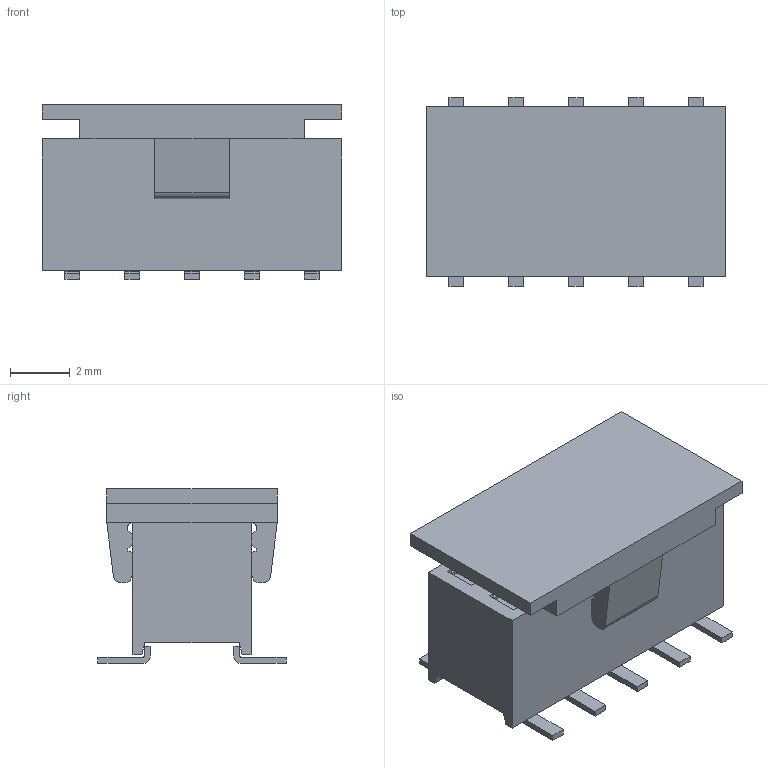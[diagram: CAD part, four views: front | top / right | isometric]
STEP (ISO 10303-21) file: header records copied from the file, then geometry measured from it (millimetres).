
FILE_DESCRIPTION (( 'STEP AP203' ), '1' );
FILE_NAME ('2143-2X05G00DNU-P.STEP', '2016-12-06T08:02:26', ( '' ), ( '' ), 'SwSTEP 2.0', 'SolidWorks 2011', '' );
FILE_SCHEMA (( 'CONFIG_CONTROL_DESIGN' ));
Length unit declared in the file: millimetre
Products named in the file (4): 2143-2X05G00DNU-P; 2143-PIN-D_0504; 2143-2X20B_0504; 2143-P1_0504_Default
Assembly tree (12 placements, depth 2):
  2143-2X05G00DNU-P
    2143-PIN-D_0504  x10
    2143-P1_0504_Default
    2143-2X20B_0504
Bounding box: 10 x 6.3 x 5.85 mm (x, y, z)
Volume: 227.7 mm3; surface area: 482.3 mm2
Topology: 42 solids, 42 shells, 705 faces, 1719 edges, 1108 vertices
Faces by surface type: plane 554, cylinder 151
Entity records: 7849 total; most frequent: CARTESIAN_POINT 1249, DIRECTION 1209, ORIENTED_EDGE 1206, EDGE_CURVE 603, LINE 551, VECTOR 551, VERTEX_POINT 361, AXIS2_PLACEMENT_3D 329
